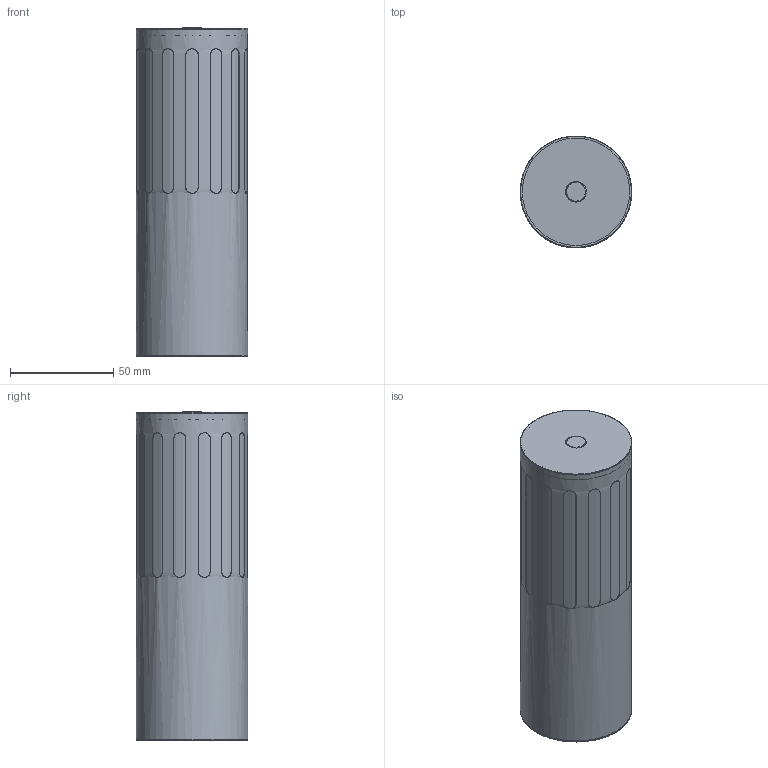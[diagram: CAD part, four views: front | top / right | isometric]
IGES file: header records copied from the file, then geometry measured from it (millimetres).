
Global section: file name: BloomsburyTableBatteryBrass; native system: unknown; preprocessor: unknown; author: unknown; organization: unknown; date: 20240910.142205; units: millimetre
Bounding box: 54 x 54 x 159.2 mm (x, y, z)
Volume: 372217.8 mm3; surface area: 83622.4 mm2
Topology: 6 solids, 6 shells, 208 faces, 471 edges, 276 vertices
Faces by surface type: bspline 208
